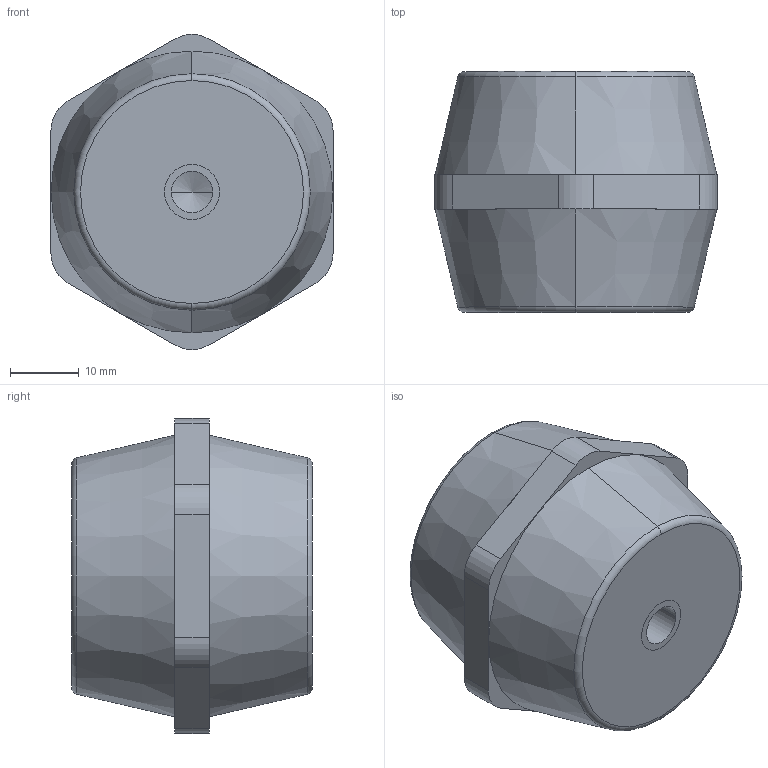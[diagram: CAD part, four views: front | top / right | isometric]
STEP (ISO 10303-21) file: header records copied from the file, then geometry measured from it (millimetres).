
FILE_DESCRIPTION (( 'STEP AP203' ), '1' );
FILE_NAME ('Isolatore 3890 41X35-M6.STEP', '2024-10-28T22:53:50', ( '' ), ( '' ), 'SwSTEP 2.0', 'SolidWorks 2020', '' );
FILE_SCHEMA (( 'CONFIG_CONTROL_DESIGN' ));
Length unit declared in the file: millimetre
Products named in the file (1): Isolatore 3890 41X35-M6
Bounding box: 41 x 35 x 45.8 mm (x, y, z)
Volume: 39912.6 mm3; surface area: 8164.4 mm2
Topology: 3 solids, 3 shells, 75 faces, 167 edges, 100 vertices
Faces by surface type: cylinder 35, plane 20, cone 16, torus 4
Entity records: 2088 total; most frequent: DIRECTION 393, CARTESIAN_POINT 331, ORIENTED_EDGE 310, AXIS2_PLACEMENT_3D 162, EDGE_CURVE 155, VERTEX_POINT 100, EDGE_LOOP 89, CIRCLE 86
